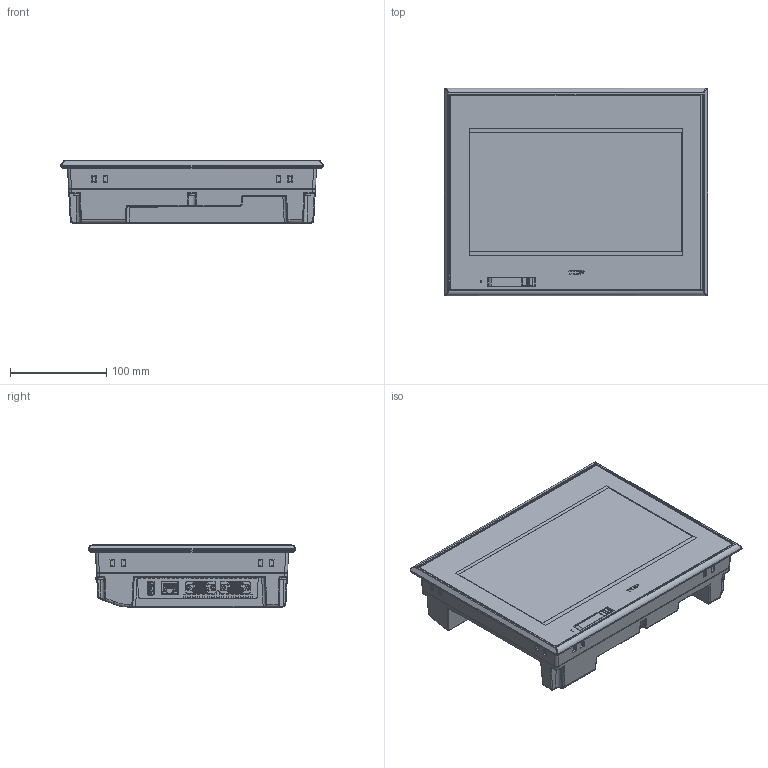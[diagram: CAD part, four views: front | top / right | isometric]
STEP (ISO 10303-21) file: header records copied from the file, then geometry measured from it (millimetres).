
FILE_DESCRIPTION((''),'2;1');
FILE_NAME('ASM0001_SW0002','2026-02-05T09:36:59',('USER'),(''),'CREO PARAMETRIC BY PTC INC, 2024153','CREO PARAMETRIC BY PTC INC, 2024153','');
FILE_SCHEMA(('CONFIG_CONTROL_DESIGN'));
Products named in the file (1): ASM0001_SW0002
Bounding box: 274 x 216 x 64.7 mm (x, y, z)
Volume: 2974238.7 mm3; surface area: 255576.5 mm2
Topology: 1 solids, 1 shells, 3162 faces, 9024 edges, 5896 vertices
Faces by surface type: plane 2094, cylinder 795, cone 116, torus 71, bspline 50, sphere 25, extrusion 11
Entity records: 107220 total; most frequent: CARTESIAN_POINT 24233, ORIENTED_EDGE 18000, DIRECTION 16459, EDGE_CURVE 9000, VECTOR 6563, LINE 6552, VERTEX_POINT 5896, AXIS2_PLACEMENT_3D 4948
